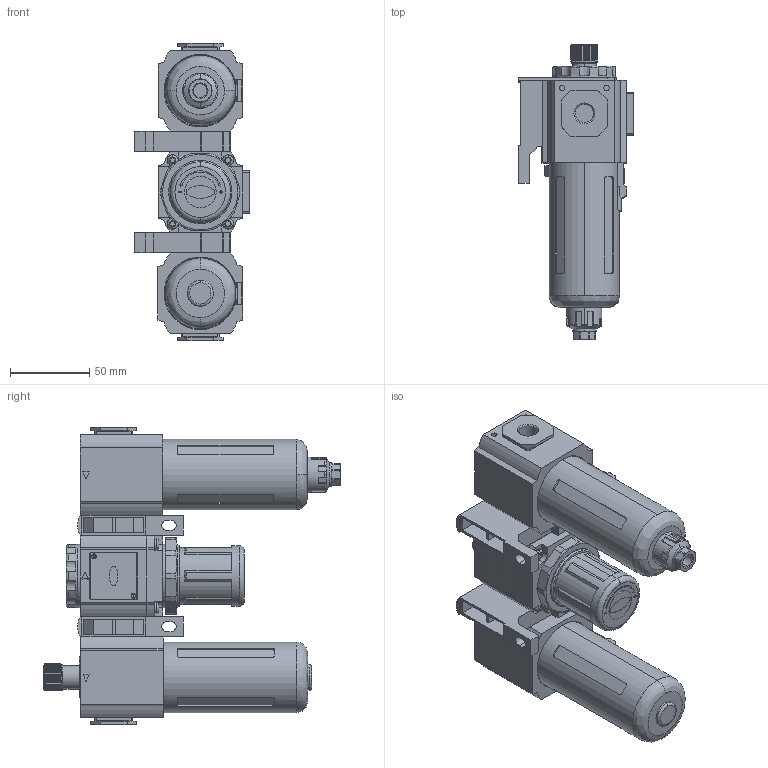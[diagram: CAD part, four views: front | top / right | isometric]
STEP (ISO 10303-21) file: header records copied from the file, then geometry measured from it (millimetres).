
FILE_DESCRIPTION (( 'STEP AP214' ), '1' );
FILE_NAME ('GC-300-08-F1.STEP', '2016-01-22T14:55:56', ( '' ), ( '' ), 'SwSTEP 2.0', 'SolidWorks 2016', '' );
FILE_SCHEMA (( 'AUTOMOTIVE_DESIGN' ));
Length unit declared in the file: millimetre
Products named in the file (29): 2; 24; 3; 25; 4; 28; 22; 26; 6; 19; 18; 20; 12; 5; 23; 27; 21; 11; 17; 14; 16; 7; 1; 13; 9; GC-300-08-F1; 8; 15; 10
Assembly tree (28 placements, depth 2):
  GC-300-08-F1
    1
    2
    3
    4
    5
    6
    7
    8
    9
    10
    11
    12
    13
    14
    15
    16
    17
    18
    19
    20
    21
    22
    23
    24
    25
    26
    27
    28
Bounding box: 72.5 x 187 x 188 mm (x, y, z)
Volume: 626685.4 mm3; surface area: 184893.7 mm2
Topology: 28 solids, 28 shells, 1916 faces, 4922 edges, 3235 vertices
Faces by surface type: plane 1223, cylinder 518, bspline 91, cone 84
Entity records: 84260 total; most frequent: CARTESIAN_POINT 15267, ORIENTED_EDGE 9844, DIRECTION 9574, EDGE_CURVE 4922, AXIS2_PLACEMENT_3D 3268, VERTEX_POINT 3235, LINE 3038, VECTOR 3038
